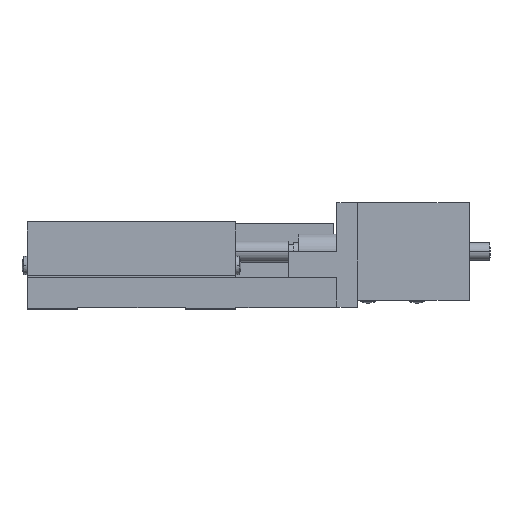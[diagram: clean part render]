
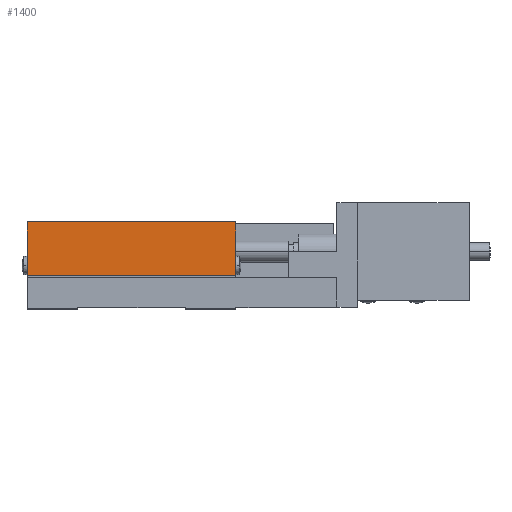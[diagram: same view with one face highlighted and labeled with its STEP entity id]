
A CAD part, top view. The second image highlights one B-rep face of the part: STEP entity #1400.
In plain terms, the highlighted planar face has unit normal (0, 0, 1) as drawn and (0, -1, 0) by its records, which use the part's own axes.
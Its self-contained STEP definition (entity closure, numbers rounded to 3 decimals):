
#631 = VECTOR ( 'NONE', #10456, 1000. ) ;
#936 = CARTESIAN_POINT ( 'NONE',  ( -30., -30., 9.5 ) ) ;
#998 = CARTESIAN_POINT ( 'NONE',  ( -30., -30., 9.5 ) ) ;
#1400 = ADVANCED_FACE ( 'NONE', ( #9009 ), #5809, .F. ) ;
#1531 = DIRECTION ( 'NONE',  ( -1., 0., 0. ) ) ;
#2164 = CARTESIAN_POINT ( 'NONE',  ( 30., -30., 25. ) ) ;
#2732 = LINE ( 'NONE', #2164, #10933 ) ;
#2808 = AXIS2_PLACEMENT_3D ( 'NONE', #7537, #7574, #11013 ) ;
#3006 = VERTEX_POINT ( 'NONE', #936 ) ;
#3918 = CARTESIAN_POINT ( 'NONE',  ( 30., -30., 25. ) ) ;
#4067 = CARTESIAN_POINT ( 'NONE',  ( 30., -30., 9.5 ) ) ;
#4534 = EDGE_CURVE ( 'NONE', #11092, #3006, #9764, .T. ) ;
#4623 = VECTOR ( 'NONE', #8587, 1000. ) ;
#5389 = EDGE_CURVE ( 'NONE', #6030, #3006, #6938, .T. ) ;
#5809 = PLANE ( 'NONE',  #2808 ) ;
#5892 = EDGE_CURVE ( 'NONE', #5896, #11092, #2732, .T. ) ;
#5896 = VERTEX_POINT ( 'NONE', #3918 ) ;
#5949 = DIRECTION ( 'NONE',  ( 0., 0., -1. ) ) ;
#6030 = VERTEX_POINT ( 'NONE', #4067 ) ;
#6734 = ORIENTED_EDGE ( 'NONE', *, *, #5892, .T. ) ;
#6843 = CARTESIAN_POINT ( 'NONE',  ( 30., -30., 9.5 ) ) ;
#6938 = LINE ( 'NONE', #6843, #4623 ) ;
#6944 = ORIENTED_EDGE ( 'NONE', *, *, #4534, .T. ) ;
#7537 = CARTESIAN_POINT ( 'NONE',  ( 30., -30., 9.5 ) ) ;
#7574 = DIRECTION ( 'NONE',  ( 0., 1., 0. ) ) ;
#7700 = LINE ( 'NONE', #10303, #10911 ) ;
#7839 = EDGE_CURVE ( 'NONE', #5896, #6030, #7700, .T. ) ;
#8587 = DIRECTION ( 'NONE',  ( -1., 0., 0. ) ) ;
#8741 = ORIENTED_EDGE ( 'NONE', *, *, #5389, .F. ) ;
#9009 = FACE_OUTER_BOUND ( 'NONE', #10819, .T. ) ;
#9363 = ORIENTED_EDGE ( 'NONE', *, *, #7839, .F. ) ;
#9764 = LINE ( 'NONE', #998, #631 ) ;
#10303 = CARTESIAN_POINT ( 'NONE',  ( 30., -30., 9.5 ) ) ;
#10456 = DIRECTION ( 'NONE',  ( 0., 0., -1. ) ) ;
#10691 = CARTESIAN_POINT ( 'NONE',  ( -30., -30., 25. ) ) ;
#10819 = EDGE_LOOP ( 'NONE', ( #6944, #8741, #9363, #6734 ) ) ;
#10911 = VECTOR ( 'NONE', #5949, 1000. ) ;
#10933 = VECTOR ( 'NONE', #1531, 1000. ) ;
#11013 = DIRECTION ( 'NONE',  ( -1., 0., 0. ) ) ;
#11092 = VERTEX_POINT ( 'NONE', #10691 ) ;
